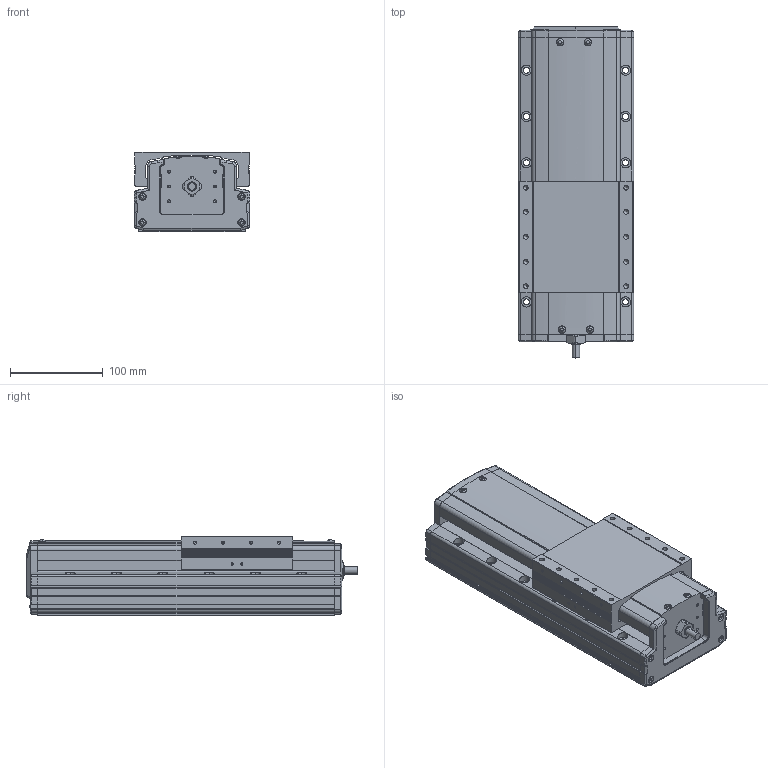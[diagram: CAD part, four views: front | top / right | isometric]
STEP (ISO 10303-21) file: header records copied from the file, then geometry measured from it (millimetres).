
FILE_DESCRIPTION(('STEP AP214'),'1');
FILE_NAME('Z:/Web/3D/PSA125/STP/PSA125-100 (3D)/PSA125ㅁㅁ-100.stp','2014-06-20T06:53:10',(' '),(' '),'Spatial InterOp 3D',' ',' ');
FILE_SCHEMA(('automotive_design'));
Length unit declared in the file: millimetre
Products named in the file (18): 스크루 : Round - M4.0 x 10.0; RRCV-PA120; SLIDE; BASE; FRCV-PA120-1(기준 뿔 제거); RR1500; 스크루 : Round - M4.0 x 6.0; 너트 : Square - M10.0 x 220.7419
Bounding box: 125 x 358.1 x 86 mm (x, y, z)
Volume: 2928894.3 mm3; surface area: 299649.7 mm2
Topology: 18 solids, 18 shells, 1780 faces, 4801 edges, 3069 vertices
Faces by surface type: plane 1004, cylinder 516, cone 172, sphere 32, bspline 31, torus 25
Entity records: 71793 total; most frequent: CARTESIAN_POINT 12286, ORIENTED_EDGE 9402, DIRECTION 9389, EDGE_CURVE 4701, LINE 3243, VECTOR 3243, AXIS2_PLACEMENT_3D 3073, VERTEX_POINT 3069
